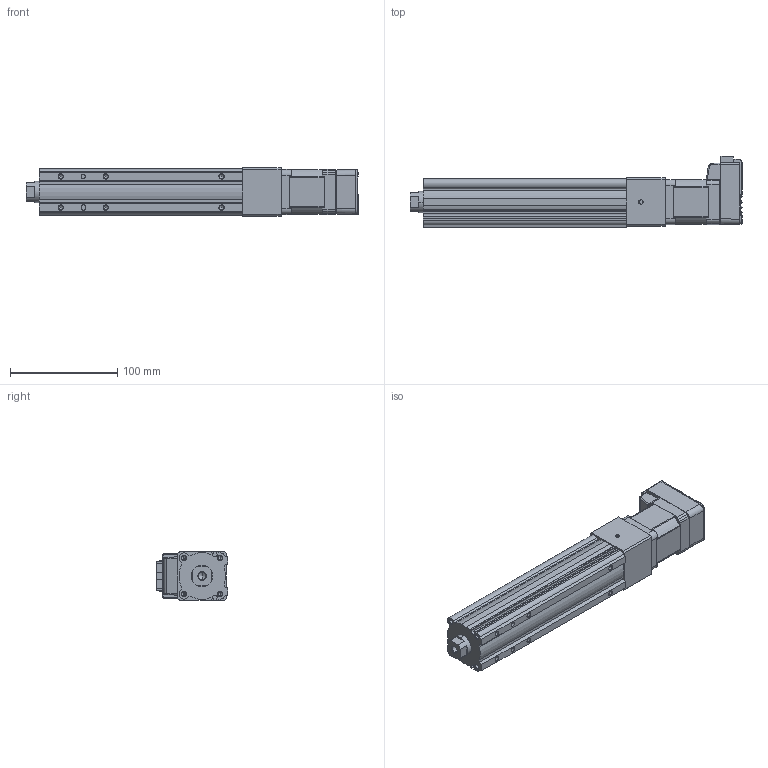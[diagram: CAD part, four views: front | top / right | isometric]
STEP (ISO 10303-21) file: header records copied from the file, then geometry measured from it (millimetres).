
FILE_DESCRIPTION (( 'STEP AP214' ), '1' );
FILE_NAME ('LEY3(+)-25DNM1□-100-17L.STEP', '2023-04-06T06:40:41', ( '' ), ( '' ), 'SwSTEP 2.0', 'SolidWorks 2019', '' );
FILE_SCHEMA (( 'AUTOMOTIVE_DESIGN' ));
Length unit declared in the file: millimetre
Products named in the file (5): LEY3(+)-25DNM1□-100-17L; LEY3(+)-25NM1?_BODY_100; CM3(+)-17L50A; LEY3(+)-25DNM1_MOTOR Flange; LEY3(+)-25NM1?_ROD_100
Assembly tree (4 placements, depth 2):
  LEY3(+)-25DNM1□-100-17L
    LEY3(+)-25NM1?_BODY_100
    LEY3(+)-25NM1?_ROD_100
    LEY3(+)-25DNM1_MOTOR Flange
    CM3(+)-17L50A
Bounding box: 309.8 x 66.75 x 45 mm (x, y, z)
Volume: 516545.2 mm3; surface area: 100173.8 mm2
Topology: 4 solids, 4 shells, 878 faces, 2218 edges, 1385 vertices
Faces by surface type: plane 460, cylinder 245, cone 94, bspline 29, torus 29, sphere 21
Full cylindrical faces by diameter (mm): 2.5 x4, 3.5 x4, 4 x1, 4.2 x6, 5 x1, 8 x1, 11 x1, 22 x1, 33 x1
Entity records: 36750 total; most frequent: CARTESIAN_POINT 6496, ORIENTED_EDGE 4284, DIRECTION 4139, EDGE_CURVE 2142, AXIS2_PLACEMENT_3D 1383, VERTEX_POINT 1375, LINE 1373, VECTOR 1373
